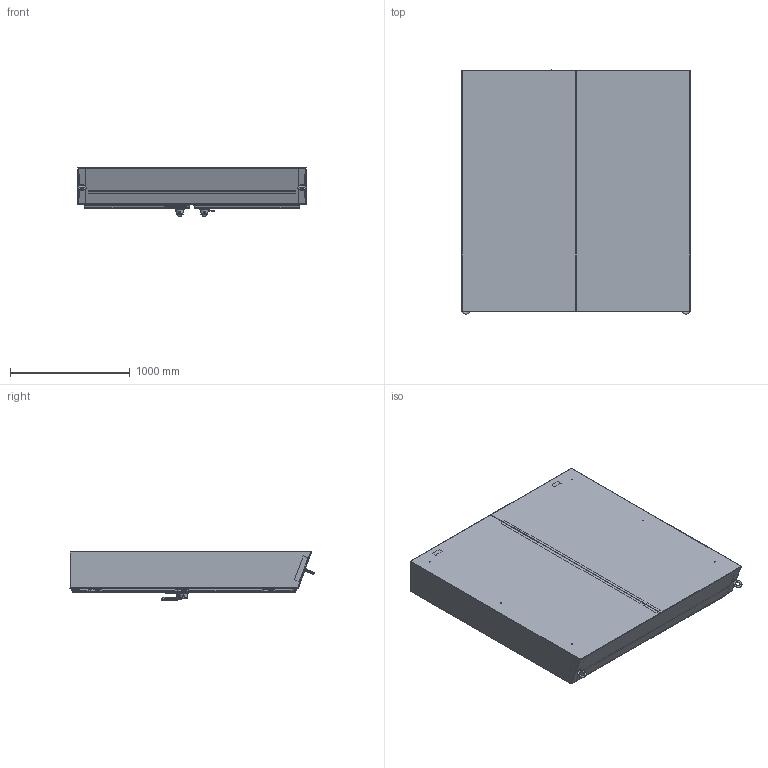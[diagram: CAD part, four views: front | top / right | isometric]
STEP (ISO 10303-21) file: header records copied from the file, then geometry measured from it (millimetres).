
FILE_DESCRIPTION (( 'STEP AP203' ), '1' );
FILE_NAME ('ws747512ss.STEP', '2013-10-01T20:43:39', ( 'User' ), ( 'Pentair Inc' ), 'SwSTEP 2.0', 'SolidWorks 2010', '' );
FILE_SCHEMA (( 'CONFIG_CONTROL_DESIGN' ));
Products named in the file (61): 89085367; 87570992; 87751114_87751114; 89085369; 89085349; 87570994; 87789850; 99412095_Config-Drawing; 27301002; 89085352; 87567405_87567405; 87567417; 87567407_87567407; 87567419; 27155001; 87567421; 87566030; 87567410; 23418001; 87789848; 87785216; 30106005; 99417126; 26118002_26118002; 87573943_87573943; 87573939_87573939; 87573942_87573942; 87573938_87573938; 30101003; 27115001; 22318002; ws747512ss; 89085628; 89085557; 87570998; 99412095; 89085559; 87571004; 89085612; 87570996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
Assembly tree (123 placements, depth 4):
  ws747512ss
    30106005
    87573943_87573943  x2
      30101003
      87573939_87573939
      22318002
      27115001
    89085349
      87789850  x3
      99412095_Config-Drawing
      27301002  x2
      89085352
      87570994
    87789848  x6
    87567407_87567407
      87566030
      27155001
      87567410
      87567419
      87567421
    87785216
    89085628
      89085412
        87571002
      87571000  x2
      87794223_87794223  x2
      22112003_AFTER WELD  x8
      87573657  x2
      87932883  x2
      89085612
        87570996
        99402203_99402203
      27104003  x2
      89085077
        99414622_99414622  x8
        99404170_Config-Drawing  x4
        21158254  x2
        87553391  x2
        99401026_default  x8
        87549311  x2
        87571110
        11359415
      89085656
      87573197  x2
      89085657
      89085557
        99412095  x2
        87570998
      89085559
        87571004
    89085367
      99412095_Config-Drawing
      87789850  x3
      87751114_87751114  x2
      89085369
      27301002  x2
      87570992
    87573942_87573942  x2
      27115001
      22318002
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Bounding box: 1912.98 x 2039.09 x 407.16 mm (x, y, z)
Volume: 32342987.3 mm3; surface area: 23573471 mm2
Topology: 119 solids, 119 shells, 5934 faces, 14356 edges, 8856 vertices
Faces by surface type: plane 2225, cylinder 1467, bspline 1073, torus 735, cone 377, sphere 57
Entity records: 166723 total; most frequent: CARTESIAN_POINT 79277, ORIENTED_EDGE 17382, DIRECTION 14869, EDGE_CURVE 8691, VERTEX_POINT 5377, AXIS2_PLACEMENT_3D 5265, LINE 4339, VECTOR 4339
